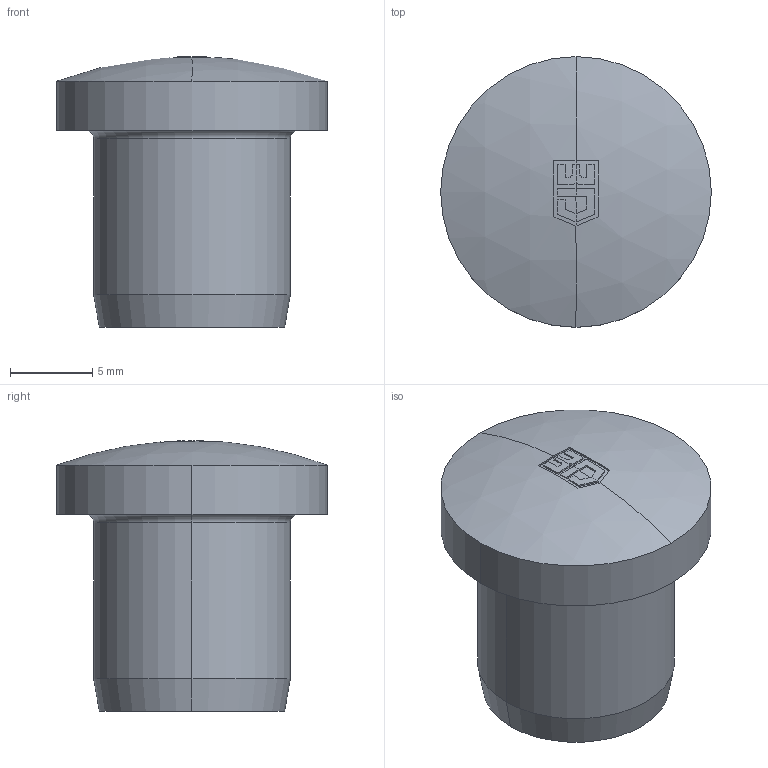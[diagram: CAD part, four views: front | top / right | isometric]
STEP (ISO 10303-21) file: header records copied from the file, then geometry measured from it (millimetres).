
FILE_DESCRIPTION (( 'STEP AP203' ), '1' );
FILE_NAME ('WJ-DM 20-VPA.STEP', '2006-08-16T06:47:10', ( ' ' ), ( '' ), 'SwSTEP 2.0', 'SolidWorks 2005278', '' );
FILE_SCHEMA (( 'CONFIG_CONTROL_DESIGN' ));
Length unit declared in the file: millimetre
Products named in the file (1): WJ-DM 20-VPA
Bounding box: 16.5 x 16.5 x 16.5 mm (x, y, z)
Volume: 954 mm3; surface area: 1494.4 mm2
Topology: 1 solids, 1 shells, 58 faces, 152 edges, 98 vertices
Faces by surface type: plane 36, sphere 12, cylinder 6, torus 2, cone 2
Entity records: 2004 total; most frequent: CARTESIAN_POINT 456, DIRECTION 336, ORIENTED_EDGE 304, EDGE_CURVE 152, AXIS2_PLACEMENT_3D 147, VERTEX_POINT 98, CIRCLE 88, EDGE_LOOP 60
